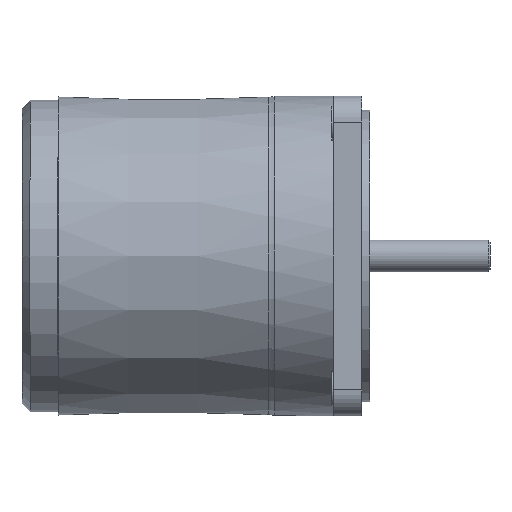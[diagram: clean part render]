
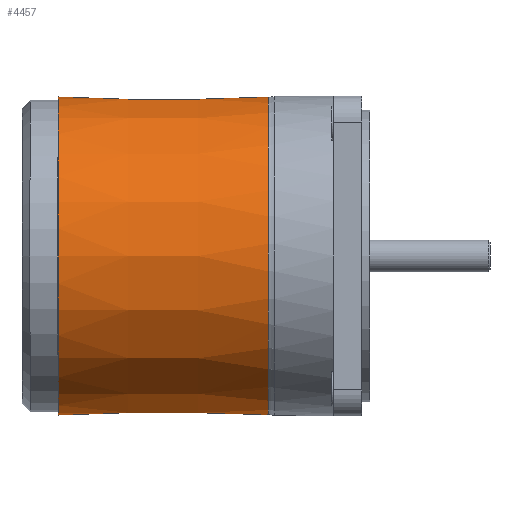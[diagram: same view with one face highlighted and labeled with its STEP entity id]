
A CAD part, front view. The second image highlights one B-rep face of the part: STEP entity #4457.
In plain terms, the highlighted conical face has half-angle 0.073 degrees and reference radius 39.784 mm.
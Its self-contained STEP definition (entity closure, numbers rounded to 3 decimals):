
#115=(
BOUNDED_CURVE()
B_SPLINE_CURVE(2,(#8015,#8016,#8017),.UNSPECIFIED.,.F.,.F.)
B_SPLINE_CURVE_WITH_KNOTS((3,3),(0.114,3.908),
 .UNSPECIFIED.)
CURVE()
GEOMETRIC_REPRESENTATION_ITEM()
RATIONAL_B_SPLINE_CURVE((1.,1.,1.))
REPRESENTATION_ITEM('')
);
#171=FACE_BOUND('',#950,.T.);
#241=CONICAL_SURFACE('',#4895,39.784,0.073);
#298=B_SPLINE_CURVE_WITH_KNOTS('',3,(#8002,#8003,#8004,#8005,#8006,#8007,
#8008,#8009,#8010,#8011,#8012,#8013),.UNSPECIFIED.,.F.,.F.,(4,2,2,2,2,4),
(-0.001,0.,0.027,0.048,0.073,
0.103),.UNSPECIFIED.);
#299=B_SPLINE_CURVE_WITH_KNOTS('',3,(#8023,#8024,#8025,#8026),
 .UNSPECIFIED.,.F.,.F.,(4,4),(-5.75,-1.842),
 .UNSPECIFIED.);
#300=B_SPLINE_CURVE_WITH_KNOTS('',3,(#8028,#8029,#8030,#8031),
 .UNSPECIFIED.,.F.,.F.,(4,4),(5.75,5.8),
 .UNSPECIFIED.);
#667=FACE_OUTER_BOUND('',#949,.T.);
#949=EDGE_LOOP('',(#3805,#3806,#3807,#3808,#3809,#3810,#3811));
#950=EDGE_LOOP('',(#3812));
#1209=CIRCLE('',#4884,39.75);
#1217=CIRCLE('',#4896,39.817);
#1218=CIRCLE('',#4897,39.817);
#1219=CIRCLE('',#4898,39.767);
#2140=VERTEX_POINT('',#7971);
#2151=VERTEX_POINT('',#8000);
#2152=VERTEX_POINT('',#8001);
#2153=VERTEX_POINT('',#8014);
#2154=VERTEX_POINT('',#8018);
#2155=VERTEX_POINT('',#8020);
#2156=VERTEX_POINT('',#8022);
#2157=VERTEX_POINT('',#8027);
#2715=EDGE_CURVE('',#2140,#2140,#1209,.T.);
#2726=EDGE_CURVE('',#2151,#2152,#298,.T.);
#2727=EDGE_CURVE('',#2152,#2153,#115,.T.);
#2728=EDGE_CURVE('',#2154,#2153,#1217,.T.);
#2729=EDGE_CURVE('',#2155,#2154,#1218,.T.);
#2730=EDGE_CURVE('',#2156,#2155,#299,.T.);
#2731=EDGE_CURVE('',#2156,#2157,#300,.T.);
#2732=EDGE_CURVE('',#2151,#2157,#1219,.T.);
#3805=ORIENTED_EDGE('',*,*,#2726,.T.);
#3806=ORIENTED_EDGE('',*,*,#2727,.T.);
#3807=ORIENTED_EDGE('',*,*,#2728,.F.);
#3808=ORIENTED_EDGE('',*,*,#2729,.F.);
#3809=ORIENTED_EDGE('',*,*,#2730,.F.);
#3810=ORIENTED_EDGE('',*,*,#2731,.T.);
#3811=ORIENTED_EDGE('',*,*,#2732,.F.);
#3812=ORIENTED_EDGE('',*,*,#2715,.T.);
#4457=ADVANCED_FACE('',(#667,#171),#241,.T.);
#4884=AXIS2_PLACEMENT_3D('',#7972,#5919,#5920);
#4895=AXIS2_PLACEMENT_3D('',#7999,#5943,#5944);
#4896=AXIS2_PLACEMENT_3D('',#8019,#5945,#5946);
#4897=AXIS2_PLACEMENT_3D('',#8021,#5947,#5948);
#4898=AXIS2_PLACEMENT_3D('',#8032,#5949,#5950);
#5919=DIRECTION('center_axis',(1.,0.,0.));
#5920=DIRECTION('ref_axis',(0.,1.,0.));
#5943=DIRECTION('center_axis',(1.,0.,0.));
#5944=DIRECTION('ref_axis',(0.,1.,0.));
#5945=DIRECTION('center_axis',(1.,0.,0.));
#5946=DIRECTION('ref_axis',(0.,1.,0.));
#5947=DIRECTION('center_axis',(1.,0.,0.));
#5948=DIRECTION('ref_axis',(0.,1.,0.));
#5949=DIRECTION('center_axis',(1.,0.,0.));
#5950=DIRECTION('ref_axis',(0.,1.,0.01));
#7971=CARTESIAN_POINT('',(9.,39.75,0.));
#7972=CARTESIAN_POINT('Origin',(9.,0.,0.));
#7999=CARTESIAN_POINT('Origin',(35.288,0.,0.));
#8000=CARTESIAN_POINT('',(22.001,28.641,-27.587));
#8001=CARTESIAN_POINT('',(23.636,28.041,-28.2));
#8002=CARTESIAN_POINT('Ctrl Pts',(22.001,28.641,-27.587));
#8003=CARTESIAN_POINT('Ctrl Pts',(22.002,28.64,-27.589));
#8004=CARTESIAN_POINT('Ctrl Pts',(22.003,28.638,-27.59));
#8005=CARTESIAN_POINT('Ctrl Pts',(22.044,28.581,-27.65));
#8006=CARTESIAN_POINT('Ctrl Pts',(22.115,28.498,-27.736));
#8007=CARTESIAN_POINT('Ctrl Pts',(22.343,28.338,-27.9));
#8008=CARTESIAN_POINT('Ctrl Pts',(22.457,28.278,-27.96));
#8009=CARTESIAN_POINT('Ctrl Pts',(22.724,28.17,-28.07));
#8010=CARTESIAN_POINT('Ctrl Pts',(22.88,28.126,-28.114));
#8011=CARTESIAN_POINT('Ctrl Pts',(23.234,28.058,-28.182));
#8012=CARTESIAN_POINT('Ctrl Pts',(23.435,28.041,-28.2));
#8013=CARTESIAN_POINT('Ctrl Pts',(23.636,28.041,-28.2));
#8014=CARTESIAN_POINT('',(61.576,28.11,-28.2));
#8015=CARTESIAN_POINT('Ctrl Pts',(23.636,28.041,-28.2));
#8016=CARTESIAN_POINT('Ctrl Pts',(42.583,28.076,-28.2));
#8017=CARTESIAN_POINT('Ctrl Pts',(61.576,28.11,-28.2));
#8018=CARTESIAN_POINT('',(61.576,27.541,28.756));
#8019=CARTESIAN_POINT('Origin',(61.576,0.,0.));
#8020=CARTESIAN_POINT('',(61.576,27.542,28.756));
#8021=CARTESIAN_POINT('Origin',(61.576,0.,0.));
#8022=CARTESIAN_POINT('',(22.5,27.471,28.754));
#8023=CARTESIAN_POINT('Ctrl Pts',(22.5,27.471,28.754));
#8024=CARTESIAN_POINT('Ctrl Pts',(35.525,27.495,28.754));
#8025=CARTESIAN_POINT('Ctrl Pts',(48.55,27.518,28.755));
#8026=CARTESIAN_POINT('Ctrl Pts',(61.576,27.542,28.756));
#8027=CARTESIAN_POINT('',(22.001,27.47,28.754));
#8028=CARTESIAN_POINT('Ctrl Pts',(22.5,27.471,28.754));
#8029=CARTESIAN_POINT('Ctrl Pts',(22.334,27.471,28.754));
#8030=CARTESIAN_POINT('Ctrl Pts',(22.167,27.47,28.754));
#8031=CARTESIAN_POINT('Ctrl Pts',(22.001,27.47,28.754));
#8032=CARTESIAN_POINT('Origin',(22.001,0.,0.));
